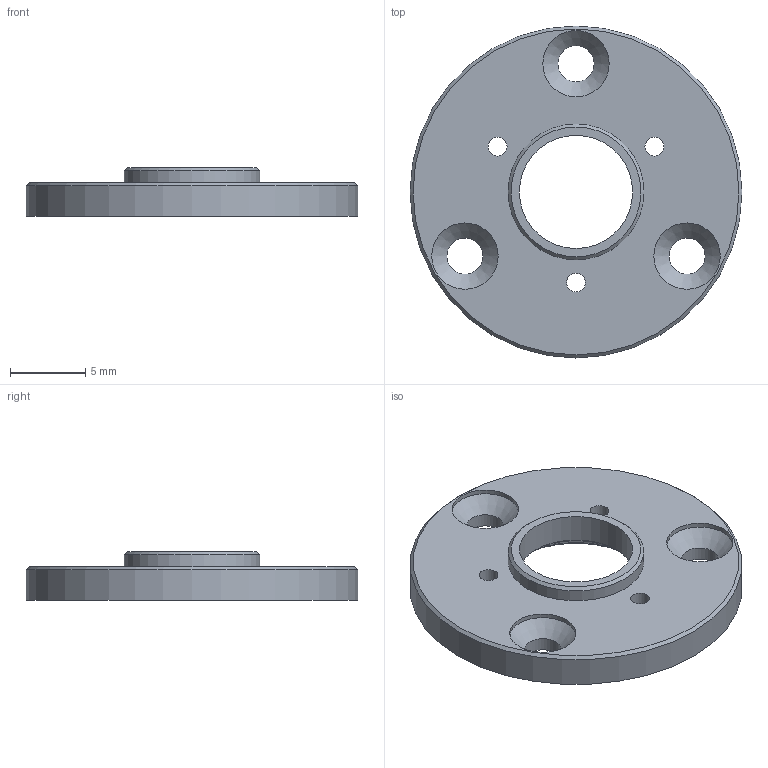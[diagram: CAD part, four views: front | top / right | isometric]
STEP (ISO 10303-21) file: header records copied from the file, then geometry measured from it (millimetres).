
FILE_DESCRIPTION(/* description */ (''),/* implementation_level */ '2;1');
FILE_NAME(/* name */ '20-1R_flange_f.stp',/* time_stamp */ '2019-07-08T11:23:11+02:00',/* author */ ('DR. FRITZ FAULHABER GmbH & Co. KG'),/* organization */ ('DR. FRITZ FAULHABER GmbH & Co. KG'),/* preprocessor_version */ 'ST-DEVELOPER v16.7',/* originating_system */ 'SIEMENS PLM Software NX 12.0',/* authorisation */ '');
FILE_SCHEMA (('AUTOMOTIVE_DESIGN { 1 0 10303 214 3 1 1 1 }'));
Length unit declared in the file: millimetre
Products named in the file (1): Part
Bounding box: 22 x 22 x 3.2 mm (x, y, z)
Volume: 655.7 mm3; surface area: 955.9 mm2
Topology: 1 solids, 1 shells, 24 faces, 55 edges, 35 vertices
Faces by surface type: cylinder 13, cone 7, plane 4
Full cylindrical faces by diameter (mm): 1.25 x3, 2.4 x3, 4.4 x3, 7.5 x1, 9 x1, 10 x1, 22 x1
Entity records: 596 total; most frequent: DIRECTION 110, CARTESIAN_POINT 85, FACE_BOUND 60, EDGE_LOOP 60, ORIENTED_EDGE 60, AXIS2_PLACEMENT_3D 55, VERTEX_POINT 30, EDGE_CURVE 30
